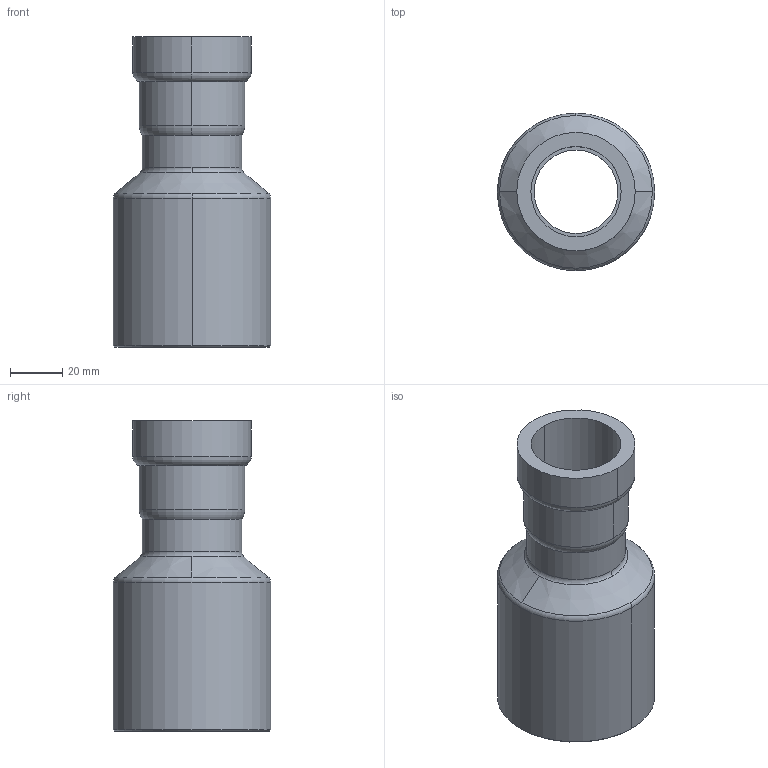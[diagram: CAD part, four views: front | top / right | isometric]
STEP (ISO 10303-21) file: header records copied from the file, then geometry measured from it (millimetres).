
FILE_DESCRIPTION(('Creo Elements/Direct Modeling STEP Export'),'2;1');
FILE_NAME('C9407_1_2.stp','2020-06-23T14:24:51',(''),(''),'PTC Creo Elements/Direct Modeling STEP processor for AP214 (Solid Model)','PTC Creo Elements/Direct Modeling 19.0C 15-Aug-2015 (C) Parametric Technology GmbH','');
FILE_SCHEMA(('AUTOMOTIVE_DESIGN { 1 0 10303 214 1 1 1 1 }'));
Length unit declared in the file: millimetre
Products named in the file (2): 9407_1_2
Assembly tree (1 placements, depth 2):
  9407_1_2
    9407_1_2
Bounding box: 60.35 x 60.35 x 119 mm (x, y, z)
Volume: 68451.3 mm3; surface area: 38268.1 mm2
Topology: 1 solids, 1 shells, 37 faces, 91 edges, 57 vertices
Faces by surface type: cylinder 14, torus 12, cone 8, plane 3
Entity records: 990 total; most frequent: ORIENTED_EDGE 182, DIRECTION 164, CARTESIAN_POINT 150, EDGE_CURVE 91, AXIS2_PLACEMENT_3D 71, VERTEX_POINT 57, EDGE_LOOP 40, FACE_OUTER_BOUND 37
